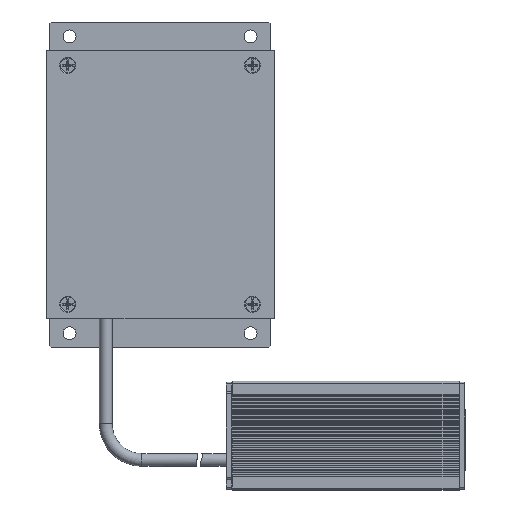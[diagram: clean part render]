
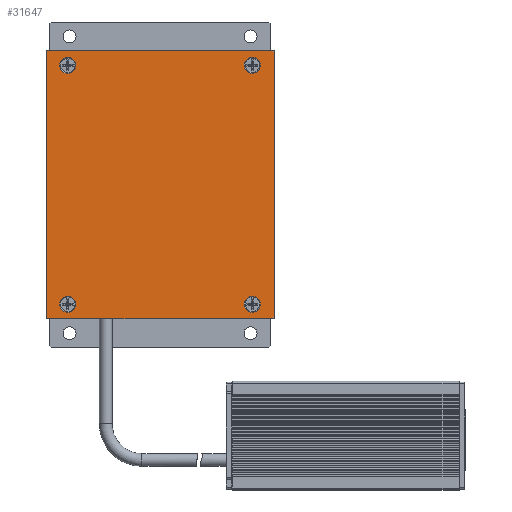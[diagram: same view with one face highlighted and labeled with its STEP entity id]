
A CAD part, top view. The second image highlights one B-rep face of the part: STEP entity #31647.
In plain terms, the highlighted planar face has unit normal (0, 0, 1).
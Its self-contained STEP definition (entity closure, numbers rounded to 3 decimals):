
#10062 = DIRECTION ( 'NONE',  ( 0., 0., 1. ) ) ;
#10068 = FACE_BOUND ( 'NONE', #77578, .T. ) ;
#10072 = DIRECTION ( 'NONE',  ( 1., 0., 0. ) ) ;
#11204 = FACE_BOUND ( 'NONE', #77574, .T. ) ;
#11205 = PLANE ( 'NONE',  #11320 ) ;
#11211 = FACE_BOUND ( 'NONE', #77579, .T. ) ;
#11214 = CARTESIAN_POINT ( 'NONE',  ( -31.5, -37., 15. ) ) ;
#11225 = FACE_OUTER_BOUND ( 'NONE', #77590, .T. ) ;
#11241 = FACE_BOUND ( 'NONE', #77555, .T. ) ;
#11296 = CIRCLE ( 'NONE', #33901, 2.2 ) ;
#11320 = AXIS2_PLACEMENT_3D ( 'NONE', #11214, #10062, #10072 ) ;
#16397 = VECTOR ( 'NONE', #29282, 1000. ) ;
#16779 = VECTOR ( 'NONE', #29267, 1000. ) ;
#16887 = CIRCLE ( 'NONE', #17080, 2.2 ) ;
#17080 = AXIS2_PLACEMENT_3D ( 'NONE', #29323, #29377, #29301 ) ;
#18100 = VECTOR ( 'NONE', #29354, 1000. ) ;
#18442 = VECTOR ( 'NONE', #29199, 1000. ) ;
#23621 = CARTESIAN_POINT ( 'NONE',  ( -31., -37., 15. ) ) ;
#23627 = CARTESIAN_POINT ( 'NONE',  ( 27.7, 33., 15. ) ) ;
#23642 = CARTESIAN_POINT ( 'NONE',  ( -31.5, 36.5, 15. ) ) ;
#23643 = CARTESIAN_POINT ( 'NONE',  ( -27.7, -33., 15. ) ) ;
#23652 = CARTESIAN_POINT ( 'NONE',  ( 31., 37., 15. ) ) ;
#23656 = CARTESIAN_POINT ( 'NONE',  ( 23.3, -33., 15. ) ) ;
#23657 = CARTESIAN_POINT ( 'NONE',  ( -31.5, -36.5, 15. ) ) ;
#23658 = CARTESIAN_POINT ( 'NONE',  ( -23.3, -33., 15. ) ) ;
#23660 = CARTESIAN_POINT ( 'NONE',  ( -27.7, 33., 15. ) ) ;
#23664 = CARTESIAN_POINT ( 'NONE',  ( -23.3, 33., 15. ) ) ;
#23666 = CARTESIAN_POINT ( 'NONE',  ( 31., -37., 15. ) ) ;
#23668 = CARTESIAN_POINT ( 'NONE',  ( 31.5, 36.5, 15. ) ) ;
#23674 = CARTESIAN_POINT ( 'NONE',  ( 31.5, -36.5, 15. ) ) ;
#23697 = CARTESIAN_POINT ( 'NONE',  ( 23.3, 33., 15. ) ) ;
#23701 = CARTESIAN_POINT ( 'NONE',  ( 27.7, -33., 15. ) ) ;
#23743 = CARTESIAN_POINT ( 'NONE',  ( -31., 37., 15. ) ) ;
#29104 = CARTESIAN_POINT ( 'NONE',  ( -31.5, 37., 15. ) ) ;
#29137 = LINE ( 'NONE', #29104, #18442 ) ;
#29199 = DIRECTION ( 'NONE',  ( -1., 0., 0. ) ) ;
#29237 = LINE ( 'NONE', #29298, #18100 ) ;
#29256 = CARTESIAN_POINT ( 'NONE',  ( -25.5, 33., 15. ) ) ;
#29259 = LINE ( 'NONE', #29326, #16779 ) ;
#29267 = DIRECTION ( 'NONE',  ( 1., 0., 0. ) ) ;
#29273 = LINE ( 'NONE', #29303, #33986 ) ;
#29276 = CARTESIAN_POINT ( 'NONE',  ( 36.75, 31.25, 15. ) ) ;
#29279 = DIRECTION ( 'NONE',  ( 1., 0., 0. ) ) ;
#29282 = DIRECTION ( 'NONE',  ( -0.707, 0.707, 0. ) ) ;
#29295 = LINE ( 'NONE', #29276, #16397 ) ;
#29298 = CARTESIAN_POINT ( 'NONE',  ( -68.25, -0.25, 15. ) ) ;
#29301 = DIRECTION ( 'NONE',  ( 1., 0., 0. ) ) ;
#29303 = CARTESIAN_POINT ( 'NONE',  ( -0.25, -68.25, 15. ) ) ;
#29314 = DIRECTION ( 'NONE',  ( 0.707, 0.707, 0. ) ) ;
#29323 = CARTESIAN_POINT ( 'NONE',  ( 25.5, 33., 15. ) ) ;
#29326 = CARTESIAN_POINT ( 'NONE',  ( -31.5, -37., 15. ) ) ;
#29347 = DIRECTION ( 'NONE',  ( 0., 0., 1. ) ) ;
#29354 = DIRECTION ( 'NONE',  ( -0.707, -0.707, 0. ) ) ;
#29377 = DIRECTION ( 'NONE',  ( 0., 0., 1. ) ) ;
#29395 = DIRECTION ( 'NONE',  ( 0., 0., 1. ) ) ;
#29482 = DIRECTION ( 'NONE',  ( 1., 0., 0. ) ) ;
#29493 = CARTESIAN_POINT ( 'NONE',  ( -25.5, -33., 15. ) ) ;
#29554 = CARTESIAN_POINT ( 'NONE',  ( -25.5, 33., 15. ) ) ;
#29556 = DIRECTION ( 'NONE',  ( 0., 0., 1. ) ) ;
#29573 = CARTESIAN_POINT ( 'NONE',  ( 25.5, -33., 15. ) ) ;
#29596 = DIRECTION ( 'NONE',  ( 0., 0., 1. ) ) ;
#29622 = DIRECTION ( 'NONE',  ( 0.707, -0.707, 0. ) ) ;
#29641 = DIRECTION ( 'NONE',  ( 1., 0., 0. ) ) ;
#29647 = CARTESIAN_POINT ( 'NONE',  ( -31.25, -36.75, 15. ) ) ;
#29703 = LINE ( 'NONE', #29647, #33904 ) ;
#29712 = CARTESIAN_POINT ( 'NONE',  ( 25.5, -33., 15. ) ) ;
#29803 = DIRECTION ( 'NONE',  ( 1., 0., 0. ) ) ;
#29824 = DIRECTION ( 'NONE',  ( 0., 0., 1. ) ) ;
#29859 = DIRECTION ( 'NONE',  ( 1., 0., 0. ) ) ;
#30047 = DIRECTION ( 'NONE',  ( 1., 0., 0. ) ) ;
#30060 = LINE ( 'NONE', #30088, #34163 ) ;
#30062 = DIRECTION ( 'NONE',  ( 0., -1., 0. ) ) ;
#30075 = DIRECTION ( 'NONE',  ( 0., 1., 0. ) ) ;
#30088 = CARTESIAN_POINT ( 'NONE',  ( -31.5, 37., 15. ) ) ;
#30108 = CARTESIAN_POINT ( 'NONE',  ( -25.5, -33., 15. ) ) ;
#30116 = LINE ( 'NONE', #30125, #33988 ) ;
#30125 = CARTESIAN_POINT ( 'NONE',  ( 31.5, 37., 15. ) ) ;
#30133 = DIRECTION ( 'NONE',  ( 0., 0., 1. ) ) ;
#30396 = DIRECTION ( 'NONE',  ( 0., 0., 1. ) ) ;
#30432 = DIRECTION ( 'NONE',  ( 1., 0., 0. ) ) ;
#30464 = CARTESIAN_POINT ( 'NONE',  ( 25.5, 33., 15. ) ) ;
#31647 = ADVANCED_FACE ( 'NONE', ( #11204, #11241, #11211, #10068, #11225 ), #11205, .T. ) ;
#33866 = CIRCLE ( 'NONE', #33958, 2.2 ) ;
#33888 = CIRCLE ( 'NONE', #33932, 2.2 ) ;
#33900 = AXIS2_PLACEMENT_3D ( 'NONE', #29573, #29596, #29641 ) ;
#33901 = AXIS2_PLACEMENT_3D ( 'NONE', #29256, #29347, #29279 ) ;
#33904 = VECTOR ( 'NONE', #29622, 1000. ) ;
#33925 = CIRCLE ( 'NONE', #33900, 2.2 ) ;
#33929 = AXIS2_PLACEMENT_3D ( 'NONE', #29493, #29395, #29482 ) ;
#33932 = AXIS2_PLACEMENT_3D ( 'NONE', #29554, #29556, #29859 ) ;
#33958 = AXIS2_PLACEMENT_3D ( 'NONE', #29712, #29824, #29803 ) ;
#33965 = CIRCLE ( 'NONE', #33929, 2.2 ) ;
#33986 = VECTOR ( 'NONE', #29314, 1000. ) ;
#33988 = VECTOR ( 'NONE', #30075, 1000. ) ;
#34004 = CIRCLE ( 'NONE', #34015, 2.2 ) ;
#34012 = CIRCLE ( 'NONE', #34051, 2.2 ) ;
#34015 = AXIS2_PLACEMENT_3D ( 'NONE', #30108, #30133, #30047 ) ;
#34051 = AXIS2_PLACEMENT_3D ( 'NONE', #30464, #30396, #30432 ) ;
#34163 = VECTOR ( 'NONE', #30062, 1000. ) ;
#34957 = EDGE_CURVE ( 'NONE', #103506, #103556, #29137, .T. ) ;
#34973 = EDGE_CURVE ( 'NONE', #103472, #103549, #16887, .T. ) ;
#34995 = EDGE_CURVE ( 'NONE', #103451, #103461, #29259, .T. ) ;
#35002 = EDGE_CURVE ( 'NONE', #103508, #103506, #29295, .T. ) ;
#35008 = EDGE_CURVE ( 'NONE', #103556, #103457, #29237, .T. ) ;
#35021 = EDGE_CURVE ( 'NONE', #103463, #103494, #11296, .T. ) ;
#35028 = EDGE_CURVE ( 'NONE', #103461, #103437, #29273, .T. ) ;
#35046 = EDGE_CURVE ( 'NONE', #103470, #103489, #33965, .T. ) ;
#35082 = EDGE_CURVE ( 'NONE', #103519, #103536, #33925, .T. ) ;
#35093 = EDGE_CURVE ( 'NONE', #103493, #103451, #29703, .T. ) ;
#35118 = EDGE_CURVE ( 'NONE', #103494, #103463, #33888, .T. ) ;
#35152 = EDGE_CURVE ( 'NONE', #103536, #103519, #33866, .T. ) ;
#35248 = EDGE_CURVE ( 'NONE', #103457, #103493, #30060, .T. ) ;
#35258 = EDGE_CURVE ( 'NONE', #103437, #103508, #30116, .T. ) ;
#35261 = EDGE_CURVE ( 'NONE', #103489, #103470, #34004, .T. ) ;
#35383 = EDGE_CURVE ( 'NONE', #103549, #103472, #34012, .T. ) ;
#38654 = ORIENTED_EDGE ( 'NONE', *, *, #35008, .T. ) ;
#38657 = ORIENTED_EDGE ( 'NONE', *, *, #35258, .T. ) ;
#38668 = ORIENTED_EDGE ( 'NONE', *, *, #35028, .T. ) ;
#38674 = ORIENTED_EDGE ( 'NONE', *, *, #34995, .T. ) ;
#38675 = ORIENTED_EDGE ( 'NONE', *, *, #35093, .T. ) ;
#38676 = ORIENTED_EDGE ( 'NONE', *, *, #35046, .F. ) ;
#38695 = ORIENTED_EDGE ( 'NONE', *, *, #34957, .T. ) ;
#38702 = ORIENTED_EDGE ( 'NONE', *, *, #35152, .F. ) ;
#38714 = ORIENTED_EDGE ( 'NONE', *, *, #35383, .F. ) ;
#38715 = ORIENTED_EDGE ( 'NONE', *, *, #35248, .T. ) ;
#38716 = ORIENTED_EDGE ( 'NONE', *, *, #35021, .F. ) ;
#38725 = ORIENTED_EDGE ( 'NONE', *, *, #35118, .F. ) ;
#38727 = ORIENTED_EDGE ( 'NONE', *, *, #35002, .T. ) ;
#38729 = ORIENTED_EDGE ( 'NONE', *, *, #35082, .F. ) ;
#38740 = ORIENTED_EDGE ( 'NONE', *, *, #35261, .F. ) ;
#38745 = ORIENTED_EDGE ( 'NONE', *, *, #34973, .F. ) ;
#77555 = EDGE_LOOP ( 'NONE', ( #38676, #38740 ) ) ;
#77574 = EDGE_LOOP ( 'NONE', ( #38725, #38716 ) ) ;
#77578 = EDGE_LOOP ( 'NONE', ( #38745, #38714 ) ) ;
#77579 = EDGE_LOOP ( 'NONE', ( #38702, #38729 ) ) ;
#77590 = EDGE_LOOP ( 'NONE', ( #38674, #38668, #38657, #38727, #38695, #38654, #38715, #38675 ) ) ;
#103437 = VERTEX_POINT ( 'NONE', #23674 ) ;
#103451 = VERTEX_POINT ( 'NONE', #23621 ) ;
#103457 = VERTEX_POINT ( 'NONE', #23642 ) ;
#103461 = VERTEX_POINT ( 'NONE', #23666 ) ;
#103463 = VERTEX_POINT ( 'NONE', #23660 ) ;
#103470 = VERTEX_POINT ( 'NONE', #23658 ) ;
#103472 = VERTEX_POINT ( 'NONE', #23627 ) ;
#103489 = VERTEX_POINT ( 'NONE', #23643 ) ;
#103493 = VERTEX_POINT ( 'NONE', #23657 ) ;
#103494 = VERTEX_POINT ( 'NONE', #23664 ) ;
#103506 = VERTEX_POINT ( 'NONE', #23652 ) ;
#103508 = VERTEX_POINT ( 'NONE', #23668 ) ;
#103519 = VERTEX_POINT ( 'NONE', #23656 ) ;
#103536 = VERTEX_POINT ( 'NONE', #23701 ) ;
#103549 = VERTEX_POINT ( 'NONE', #23697 ) ;
#103556 = VERTEX_POINT ( 'NONE', #23743 ) ;
